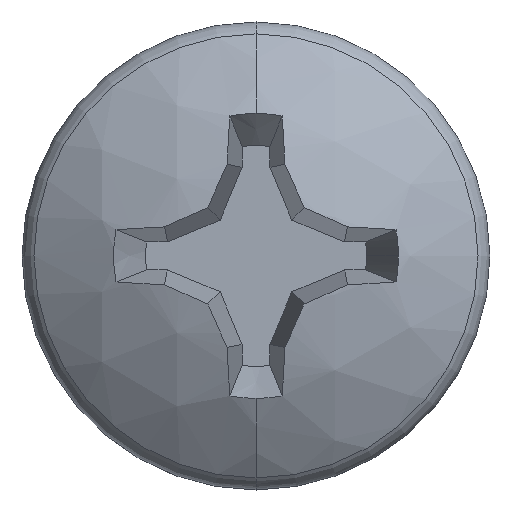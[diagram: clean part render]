
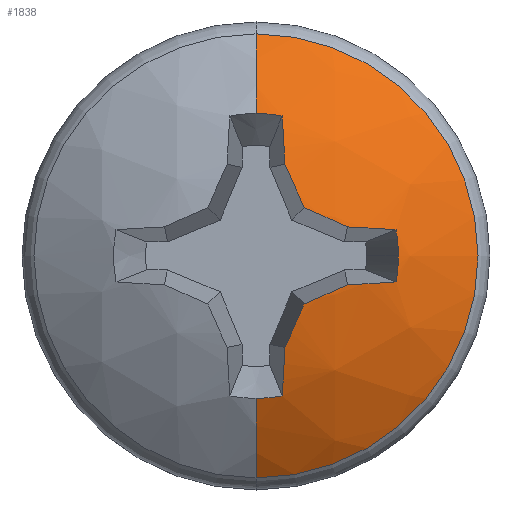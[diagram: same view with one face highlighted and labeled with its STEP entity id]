
A CAD part, top view. The second image highlights one B-rep face of the part: STEP entity #1838.
In plain terms, the highlighted spherical face has radius 4.315 mm.
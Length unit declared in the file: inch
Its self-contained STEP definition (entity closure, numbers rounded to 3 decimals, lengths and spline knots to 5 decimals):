
#38 = DIRECTION ( 'NONE',  ( 0.377, 0.91, -0.174 ) ) ;
#73 = DIRECTION ( 'NONE',  ( 0.377, -0.91, -0.174 ) ) ;
#112 = AXIS2_PLACEMENT_3D ( 'NONE', #1464, #1484, #3511 ) ;
#134 = ORIENTED_EDGE ( 'NONE', *, *, #2179, .T. ) ;
#197 = CARTESIAN_POINT ( 'NONE',  ( 0., 0., -0.08988 ) ) ;
#200 = EDGE_CURVE ( 'NONE', #3451, #290, #2587, .T. ) ;
#265 = EDGE_CURVE ( 'NONE', #3602, #845, #2459, .T. ) ;
#268 = ORIENTED_EDGE ( 'NONE', *, *, #2535, .F. ) ;
#283 = DIRECTION ( 'NONE',  ( 0.985, 0., -0.174 ) ) ;
#284 = AXIS2_PLACEMENT_3D ( 'NONE', #3507, #73, #2626 ) ;
#290 = VERTEX_POINT ( 'NONE', #1207 ) ;
#305 = FACE_OUTER_BOUND ( 'NONE', #2688, .T. ) ;
#334 = DIRECTION ( 'NONE',  ( 0., 0., -1. ) ) ;
#336 = CIRCLE ( 'NONE', #2497, 0.1692 ) ;
#339 = VERTEX_POINT ( 'NONE', #3573 ) ;
#376 = AXIS2_PLACEMENT_3D ( 'NONE', #3719, #334, #1421 ) ;
#499 = CARTESIAN_POINT ( 'NONE',  ( 0.02253, -0.02253, 0.07699 ) ) ;
#529 = CIRCLE ( 'NONE', #284, 0.16988 ) ;
#553 = CARTESIAN_POINT ( 'NONE',  ( 0.06665, 0., 0.06638 ) ) ;
#573 = CIRCLE ( 'NONE', #868, 0.16988 ) ;
#578 = DIRECTION ( 'NONE',  ( 0.174, 0., 0.985 ) ) ;
#581 = DIRECTION ( 'NONE',  ( -1., 0., 0. ) ) ;
#590 = CARTESIAN_POINT ( 'NONE',  ( 0., 0., 0.06638 ) ) ;
#607 = CIRCLE ( 'NONE', #1712, 0.06665 ) ;
#635 = CARTESIAN_POINT ( 'NONE',  ( 0., 0., 0.06638 ) ) ;
#692 = DIRECTION ( 'NONE',  ( -1., 0., 0. ) ) ;
#804 = CIRCLE ( 'NONE', #1374, 0.16988 ) ;
#845 = VERTEX_POINT ( 'NONE', #2696 ) ;
#847 = CARTESIAN_POINT ( 'NONE',  ( -0.01489, 0., -0.08725 ) ) ;
#855 = VERTEX_POINT ( 'NONE', #1010 ) ;
#856 = DIRECTION ( 'NONE',  ( 0., -0.174, -0.985 ) ) ;
#868 = AXIS2_PLACEMENT_3D ( 'NONE', #1645, #2226, #2843 ) ;
#877 = CARTESIAN_POINT ( 'NONE',  ( -0.01489, 0., -0.08725 ) ) ;
#939 = VERTEX_POINT ( 'NONE', #2752 ) ;
#954 = CARTESIAN_POINT ( 'NONE',  ( 0.01353, 0.04285, 0.07395 ) ) ;
#976 = CIRCLE ( 'NONE', #1398, 0.16988 ) ;
#1010 = CARTESIAN_POINT ( 'NONE',  ( 0.02253, 0.02253, 0.07699 ) ) ;
#1020 = CARTESIAN_POINT ( 'NONE',  ( 0.01353, -0.04285, 0.07395 ) ) ;
#1026 = EDGE_CURVE ( 'NONE', #2855, #2005, #3407, .T. ) ;
#1071 = AXIS2_PLACEMENT_3D ( 'NONE', #877, #2039, #3432 ) ;
#1085 = EDGE_CURVE ( 'NONE', #1423, #3680, #607, .T. ) ;
#1089 = CARTESIAN_POINT ( 'NONE',  ( 0., 0.01489, -0.08725 ) ) ;
#1103 = EDGE_CURVE ( 'NONE', #855, #1923, #3582, .T. ) ;
#1186 = EDGE_CURVE ( 'NONE', #939, #2901, #529, .T. ) ;
#1207 = CARTESIAN_POINT ( 'NONE',  ( 0., -0.10391, 0.04452 ) ) ;
#1247 = ORIENTED_EDGE ( 'NONE', *, *, #2415, .T. ) ;
#1249 = CIRCLE ( 'NONE', #3330, 0.1692 ) ;
#1374 = AXIS2_PLACEMENT_3D ( 'NONE', #1378, #3077, #3688 ) ;
#1378 = CARTESIAN_POINT ( 'NONE',  ( 0.00001, -0.00001, -0.08988 ) ) ;
#1398 = AXIS2_PLACEMENT_3D ( 'NONE', #1768, #2894, #2874 ) ;
#1421 = DIRECTION ( 'NONE',  ( 0., 1., 0. ) ) ;
#1423 = VERTEX_POINT ( 'NONE', #553 ) ;
#1464 = CARTESIAN_POINT ( 'NONE',  ( 0., 0., 0.06638 ) ) ;
#1466 = CIRCLE ( 'NONE', #1071, 0.1692 ) ;
#1484 = DIRECTION ( 'NONE',  ( 0., 0., -1. ) ) ;
#1491 = AXIS2_PLACEMENT_3D ( 'NONE', #2671, #692, #3289 ) ;
#1621 = CARTESIAN_POINT ( 'NONE',  ( 0.04285, 0.01353, 0.07395 ) ) ;
#1645 = CARTESIAN_POINT ( 'NONE',  ( 0., 0., -0.08988 ) ) ;
#1688 = DIRECTION ( 'NONE',  ( 0., -0.985, -0.174 ) ) ;
#1689 = DIRECTION ( 'NONE',  ( 0., 0., -1. ) ) ;
#1702 = ORIENTED_EDGE ( 'NONE', *, *, #2828, .T. ) ;
#1711 = ORIENTED_EDGE ( 'NONE', *, *, #1103, .T. ) ;
#1712 = AXIS2_PLACEMENT_3D ( 'NONE', #1763, #3444, #2595 ) ;
#1758 = DIRECTION ( 'NONE',  ( -1., 0., 0. ) ) ;
#1763 = CARTESIAN_POINT ( 'NONE',  ( 0., 0., 0.06638 ) ) ;
#1768 = CARTESIAN_POINT ( 'NONE',  ( 0.00001, 0.00001, -0.08988 ) ) ;
#1790 = ORIENTED_EDGE ( 'NONE', *, *, #265, .T. ) ;
#1834 = VERTEX_POINT ( 'NONE', #1020 ) ;
#1838 = ADVANCED_FACE ( 'NONE', ( #305 ), #2948, .T. ) ;
#1861 = EDGE_CURVE ( 'NONE', #1834, #3602, #1466, .T. ) ;
#1880 = EDGE_CURVE ( 'NONE', #2005, #2598, #1249, .T. ) ;
#1882 = CARTESIAN_POINT ( 'NONE',  ( 0.0122, 0.06552, 0.06638 ) ) ;
#1920 = CIRCLE ( 'NONE', #112, 0.06665 ) ;
#1923 = VERTEX_POINT ( 'NONE', #1621 ) ;
#2005 = VERTEX_POINT ( 'NONE', #1882 ) ;
#2039 = DIRECTION ( 'NONE',  ( 0.985, 0., -0.174 ) ) ;
#2139 = CARTESIAN_POINT ( 'NONE',  ( 0.06552, -0.0122, 0.06638 ) ) ;
#2165 = DIRECTION ( 'NONE',  ( 1., 0., 0. ) ) ;
#2171 = AXIS2_PLACEMENT_3D ( 'NONE', #590, #2573, #581 ) ;
#2179 = EDGE_CURVE ( 'NONE', #2901, #1834, #804, .T. ) ;
#2194 = EDGE_CURVE ( 'NONE', #845, #290, #573, .T. ) ;
#2209 = DIRECTION ( 'NONE',  ( 0., 1., 0. ) ) ;
#2226 = DIRECTION ( 'NONE',  ( 1., 0., 0. ) ) ;
#2285 = DIRECTION ( 'NONE',  ( 0., 0.985, -0.174 ) ) ;
#2312 = CARTESIAN_POINT ( 'NONE',  ( 0.00001, 0.00001, -0.08988 ) ) ;
#2324 = CIRCLE ( 'NONE', #1491, 0.16988 ) ;
#2349 = CARTESIAN_POINT ( 'NONE',  ( 0.0122, -0.06552, 0.06638 ) ) ;
#2415 = EDGE_CURVE ( 'NONE', #2598, #855, #976, .T. ) ;
#2459 = CIRCLE ( 'NONE', #3697, 0.06665 ) ;
#2497 = AXIS2_PLACEMENT_3D ( 'NONE', #3140, #2285, #856 ) ;
#2501 = ORIENTED_EDGE ( 'NONE', *, *, #1861, .T. ) ;
#2535 = EDGE_CURVE ( 'NONE', #2855, #3451, #2324, .T. ) ;
#2557 = ORIENTED_EDGE ( 'NONE', *, *, #1085, .T. ) ;
#2573 = DIRECTION ( 'NONE',  ( 0., 0., -1. ) ) ;
#2587 = CIRCLE ( 'NONE', #376, 0.10391 ) ;
#2595 = DIRECTION ( 'NONE',  ( -1., 0., 0. ) ) ;
#2598 = VERTEX_POINT ( 'NONE', #954 ) ;
#2626 = DIRECTION ( 'NONE',  ( -0.924, -0.383, 0. ) ) ;
#2671 = CARTESIAN_POINT ( 'NONE',  ( 0., 0., -0.08988 ) ) ;
#2688 = EDGE_LOOP ( 'NONE', ( #1790, #2896, #3225, #268, #3578, #3332, #1247, #1711, #3282, #3532, #2557, #1702, #3268, #134, #2501 ) ) ;
#2696 = CARTESIAN_POINT ( 'NONE',  ( 0., -0.06665, 0.06638 ) ) ;
#2752 = CARTESIAN_POINT ( 'NONE',  ( 0.04285, -0.01353, 0.07395 ) ) ;
#2828 = EDGE_CURVE ( 'NONE', #3680, #939, #3219, .T. ) ;
#2843 = DIRECTION ( 'NONE',  ( 0., 1., 0. ) ) ;
#2855 = VERTEX_POINT ( 'NONE', #3073 ) ;
#2874 = DIRECTION ( 'NONE',  ( 0.383, -0.924, 0. ) ) ;
#2894 = DIRECTION ( 'NONE',  ( 0.91, 0.377, -0.174 ) ) ;
#2896 = ORIENTED_EDGE ( 'NONE', *, *, #2194, .T. ) ;
#2901 = VERTEX_POINT ( 'NONE', #499 ) ;
#2948 = SPHERICAL_SURFACE ( 'NONE', #2974, 0.16988 ) ;
#2974 = AXIS2_PLACEMENT_3D ( 'NONE', #197, #2165, #2209 ) ;
#3014 = EDGE_CURVE ( 'NONE', #1923, #339, #336, .T. ) ;
#3024 = CARTESIAN_POINT ( 'NONE',  ( 0., 0.10391, 0.04452 ) ) ;
#3073 = CARTESIAN_POINT ( 'NONE',  ( 0., 0.06665, 0.06638 ) ) ;
#3077 = DIRECTION ( 'NONE',  ( 0.91, -0.377, -0.174 ) ) ;
#3140 = CARTESIAN_POINT ( 'NONE',  ( 0., -0.01489, -0.08725 ) ) ;
#3193 = AXIS2_PLACEMENT_3D ( 'NONE', #1089, #1688, #3708 ) ;
#3199 = EDGE_CURVE ( 'NONE', #339, #1423, #1920, .T. ) ;
#3219 = CIRCLE ( 'NONE', #3193, 0.1692 ) ;
#3225 = ORIENTED_EDGE ( 'NONE', *, *, #200, .F. ) ;
#3268 = ORIENTED_EDGE ( 'NONE', *, *, #1186, .T. ) ;
#3282 = ORIENTED_EDGE ( 'NONE', *, *, #3014, .T. ) ;
#3289 = DIRECTION ( 'NONE',  ( 0., 0., 1. ) ) ;
#3330 = AXIS2_PLACEMENT_3D ( 'NONE', #847, #283, #578 ) ;
#3332 = ORIENTED_EDGE ( 'NONE', *, *, #1880, .T. ) ;
#3407 = CIRCLE ( 'NONE', #2171, 0.06665 ) ;
#3432 = DIRECTION ( 'NONE',  ( 0.174, 0., 0.985 ) ) ;
#3443 = AXIS2_PLACEMENT_3D ( 'NONE', #2312, #38, #3476 ) ;
#3444 = DIRECTION ( 'NONE',  ( 0., 0., -1. ) ) ;
#3451 = VERTEX_POINT ( 'NONE', #3024 ) ;
#3476 = DIRECTION ( 'NONE',  ( 0.924, -0.383, 0. ) ) ;
#3507 = CARTESIAN_POINT ( 'NONE',  ( 0.00001, -0.00001, -0.08988 ) ) ;
#3511 = DIRECTION ( 'NONE',  ( -1., 0., 0. ) ) ;
#3532 = ORIENTED_EDGE ( 'NONE', *, *, #3199, .T. ) ;
#3573 = CARTESIAN_POINT ( 'NONE',  ( 0.06552, 0.0122, 0.06638 ) ) ;
#3578 = ORIENTED_EDGE ( 'NONE', *, *, #1026, .T. ) ;
#3582 = CIRCLE ( 'NONE', #3443, 0.16988 ) ;
#3602 = VERTEX_POINT ( 'NONE', #2349 ) ;
#3680 = VERTEX_POINT ( 'NONE', #2139 ) ;
#3688 = DIRECTION ( 'NONE',  ( -0.383, -0.924, 0. ) ) ;
#3697 = AXIS2_PLACEMENT_3D ( 'NONE', #635, #1689, #1758 ) ;
#3708 = DIRECTION ( 'NONE',  ( 0., -0.174, 0.985 ) ) ;
#3719 = CARTESIAN_POINT ( 'NONE',  ( 0., 0., 0.04452 ) ) ;
